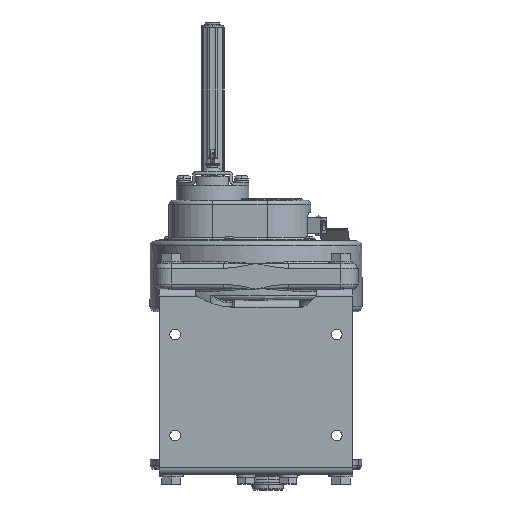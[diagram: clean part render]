
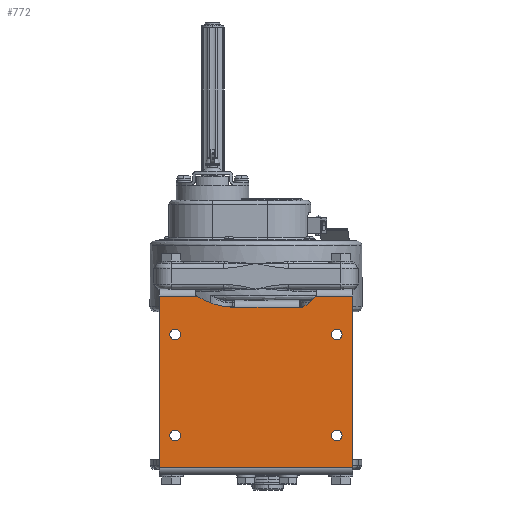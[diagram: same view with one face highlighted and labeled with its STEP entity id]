
A CAD part, front view. The second image highlights one B-rep face of the part: STEP entity #772.
In plain terms, the highlighted planar face has unit normal (0, -1, 0).
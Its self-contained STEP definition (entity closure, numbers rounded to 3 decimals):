
#772=ADVANCED_FACE('',(#9258,#9259,#9260,#9261,#9262),#9257,.T.);
#9257=PLANE('',#33594);
#9258=FACE_OUTER_BOUND('',#33595,.T.);
#9259=FACE_BOUND('',#33596,.T.);
#9260=FACE_BOUND('',#33597,.T.);
#9261=FACE_BOUND('',#33598,.T.);
#9262=FACE_BOUND('',#33599,.T.);
#33591=CARTESIAN_POINT('',(11.,-36.383,-212.1));
#33592=DIRECTION('',(0.,-1.,0.));
#33593=DIRECTION('',(0.,0.,1.));
#33594=AXIS2_PLACEMENT_3D('',#33591,#33592,#33593);
#33595=EDGE_LOOP('',(#50933,#50934,#50935,#50936,#50937,#50938,#50939,#50940,#50941,#50942));
#33596=EDGE_LOOP('',(#50943,#50944));
#33597=EDGE_LOOP('',(#50945,#50946));
#33598=EDGE_LOOP('',(#50947,#50948));
#33599=EDGE_LOOP('',(#50949,#50950));
#50933=ORIENTED_EDGE('',*,*,#62390,.T.);
#50934=ORIENTED_EDGE('',*,*,#62392,.T.);
#50935=ORIENTED_EDGE('',*,*,#62393,.T.);
#50936=ORIENTED_EDGE('',*,*,#62394,.T.);
#50937=ORIENTED_EDGE('',*,*,#62395,.T.);
#50938=ORIENTED_EDGE('',*,*,#62396,.T.);
#50939=ORIENTED_EDGE('',*,*,#62383,.T.);
#50940=ORIENTED_EDGE('',*,*,#62397,.F.);
#50941=ORIENTED_EDGE('',*,*,#62370,.F.);
#50942=ORIENTED_EDGE('',*,*,#62398,.T.);
#50943=ORIENTED_EDGE('',*,*,#62399,.F.);
#50944=ORIENTED_EDGE('',*,*,#62400,.F.);
#50945=ORIENTED_EDGE('',*,*,#62401,.F.);
#50946=ORIENTED_EDGE('',*,*,#62402,.F.);
#50947=ORIENTED_EDGE('',*,*,#62403,.F.);
#50948=ORIENTED_EDGE('',*,*,#62404,.F.);
#50949=ORIENTED_EDGE('',*,*,#62405,.F.);
#50950=ORIENTED_EDGE('',*,*,#62406,.F.);
#62370=EDGE_CURVE('',#80009,#80010,#80011,.T.);
#62383=EDGE_CURVE('',#80101,#80094,#80102,.T.);
#62390=EDGE_CURVE('',#80150,#80143,#80151,.T.);
#62392=EDGE_CURVE('',#80143,#80163,#80164,.T.);
#62393=EDGE_CURVE('',#80163,#80170,#80171,.T.);
#62394=EDGE_CURVE('',#80170,#80177,#80178,.T.);
#62395=EDGE_CURVE('',#80177,#80184,#80185,.T.);
#62396=EDGE_CURVE('',#80184,#80101,#80191,.T.);
#62397=EDGE_CURVE('',#80010,#80094,#80197,.T.);
#62398=EDGE_CURVE('',#80009,#80150,#80203,.T.);
#62399=EDGE_CURVE('',#80209,#80210,#80211,.T.);
#62400=EDGE_CURVE('',#80210,#80209,#80217,.T.);
#62401=EDGE_CURVE('',#80223,#80224,#80225,.T.);
#62402=EDGE_CURVE('',#80224,#80223,#80231,.T.);
#62403=EDGE_CURVE('',#80237,#80238,#80239,.T.);
#62404=EDGE_CURVE('',#80238,#80237,#80245,.T.);
#62405=EDGE_CURVE('',#80251,#80252,#80253,.T.);
#62406=EDGE_CURVE('',#80252,#80251,#80259,.T.);
#80009=VERTEX_POINT('',#118549);
#80010=VERTEX_POINT('',#118550);
#80011=LINE('',#118551,#118552);
#80094=VERTEX_POINT('',#118610);
#80101=VERTEX_POINT('',#118615);
#80102=LINE('',#118616,#118617);
#80143=VERTEX_POINT('',#118644);
#80150=VERTEX_POINT('',#118649);
#80151=LINE('',#118650,#118651);
#80163=VERTEX_POINT('',#118657);
#80164=CIRCLE('',#118661,30.);
#80170=VERTEX_POINT('',#118662);
#80171=CIRCLE('',#118666,2.);
#80177=VERTEX_POINT('',#118667);
#80178=LINE('',#118668,#118669);
#80184=VERTEX_POINT('',#118671);
#80185=CIRCLE('',#118675,2.);
#80191=CIRCLE('',#118679,70.);
#80197=LINE('',#118680,#118681);
#80203=LINE('',#118683,#118684);
#80209=VERTEX_POINT('',#118686);
#80210=VERTEX_POINT('',#118687);
#80211=CIRCLE('',#118691,5.25);
#80217=CIRCLE('',#118695,5.25);
#80223=VERTEX_POINT('',#118696);
#80224=VERTEX_POINT('',#118697);
#80225=CIRCLE('',#118701,5.25);
#80231=CIRCLE('',#118705,5.25);
#80237=VERTEX_POINT('',#118706);
#80238=VERTEX_POINT('',#118707);
#80239=CIRCLE('',#118711,5.25);
#80245=CIRCLE('',#118715,5.25);
#80251=VERTEX_POINT('',#118716);
#80252=VERTEX_POINT('',#118717);
#80253=CIRCLE('',#118721,5.25);
#80259=CIRCLE('',#118725,5.25);
#118549=CARTESIAN_POINT('',(1.,-36.383,-202.1));
#118550=CARTESIAN_POINT('',(-191.,-36.383,-202.1));
#118551=CARTESIAN_POINT('',(1.,-36.383,-202.1));
#118552=VECTOR('',#118553,192.);
#118553=DIRECTION('',(-1.,0.,0.));
#118610=CARTESIAN_POINT('',(-191.,-36.383,-32.4));
#118615=CARTESIAN_POINT('',(-153.59,-36.383,-32.4));
#118616=CARTESIAN_POINT('',(-153.59,-36.383,-32.4));
#118617=VECTOR('',#118618,37.41);
#118618=DIRECTION('',(-1.,0.,0.));
#118644=CARTESIAN_POINT('',(-35.917,-36.383,-32.4));
#118649=CARTESIAN_POINT('',(1.,-36.383,-32.4));
#118650=CARTESIAN_POINT('',(1.,-36.383,-32.4));
#118651=VECTOR('',#118652,36.917);
#118652=DIRECTION('',(-1.,0.,0.));
#118657=CARTESIAN_POINT('',(-49.234,-36.383,-43.247));
#118658=CARTESIAN_POINT('',(-60.73,-36.383,-15.537));
#118659=DIRECTION('',(0.,1.,0.));
#118660=DIRECTION('',(0.,0.,-1.));
#118661=AXIS2_PLACEMENT_3D('',#118658,#118659,#118660);
#118662=CARTESIAN_POINT('',(-50.,-36.383,-43.4));
#118663=CARTESIAN_POINT('',(-50.,-36.383,-41.4));
#118664=DIRECTION('',(0.,1.,0.));
#118665=DIRECTION('',(0.,0.,-1.));
#118666=AXIS2_PLACEMENT_3D('',#118663,#118664,#118665);
#118667=CARTESIAN_POINT('',(-118.,-36.383,-43.4));
#118668=CARTESIAN_POINT('',(-50.,-36.383,-43.4));
#118669=VECTOR('',#118670,68.);
#118670=DIRECTION('',(-1.,0.,0.));
#118671=CARTESIAN_POINT('',(-118.063,-36.383,-43.399));
#118672=CARTESIAN_POINT('',(-118.,-36.383,-41.4));
#118673=DIRECTION('',(0.,1.,0.));
#118674=DIRECTION('',(0.,0.,-1.));
#118675=AXIS2_PLACEMENT_3D('',#118672,#118673,#118674);
#118676=CARTESIAN_POINT('',(-115.868,-36.383,26.567));
#118677=DIRECTION('',(0.,1.,0.));
#118678=DIRECTION('',(0.,0.,-1.));
#118679=AXIS2_PLACEMENT_3D('',#118676,#118677,#118678);
#118680=CARTESIAN_POINT('',(-191.,-36.383,-202.1));
#118681=VECTOR('',#118682,169.7);
#118682=DIRECTION('',(0.,0.,1.));
#118683=CARTESIAN_POINT('',(1.,-36.383,-202.1));
#118684=VECTOR('',#118685,169.7);
#118685=DIRECTION('',(0.,0.,1.));
#118686=CARTESIAN_POINT('',(-15.,-36.383,-75.65));
#118687=CARTESIAN_POINT('',(-15.,-36.383,-65.15));
#118688=CARTESIAN_POINT('',(-15.,-36.383,-70.4));
#118689=DIRECTION('',(0.,-1.,0.));
#118690=DIRECTION('',(0.,0.,1.));
#118691=AXIS2_PLACEMENT_3D('',#118688,#118689,#118690);
#118692=CARTESIAN_POINT('',(-15.,-36.383,-70.4));
#118693=DIRECTION('',(0.,-1.,0.));
#118694=DIRECTION('',(0.,0.,1.));
#118695=AXIS2_PLACEMENT_3D('',#118692,#118693,#118694);
#118696=CARTESIAN_POINT('',(-175.,-36.383,-75.65));
#118697=CARTESIAN_POINT('',(-175.,-36.383,-65.15));
#118698=CARTESIAN_POINT('',(-175.,-36.383,-70.4));
#118699=DIRECTION('',(0.,-1.,0.));
#118700=DIRECTION('',(0.,0.,1.));
#118701=AXIS2_PLACEMENT_3D('',#118698,#118699,#118700);
#118702=CARTESIAN_POINT('',(-175.,-36.383,-70.4));
#118703=DIRECTION('',(0.,-1.,0.));
#118704=DIRECTION('',(0.,0.,1.));
#118705=AXIS2_PLACEMENT_3D('',#118702,#118703,#118704);
#118706=CARTESIAN_POINT('',(-175.,-36.383,-175.65));
#118707=CARTESIAN_POINT('',(-175.,-36.383,-165.15));
#118708=CARTESIAN_POINT('',(-175.,-36.383,-170.4));
#118709=DIRECTION('',(0.,-1.,0.));
#118710=DIRECTION('',(0.,0.,1.));
#118711=AXIS2_PLACEMENT_3D('',#118708,#118709,#118710);
#118712=CARTESIAN_POINT('',(-175.,-36.383,-170.4));
#118713=DIRECTION('',(0.,-1.,0.));
#118714=DIRECTION('',(0.,0.,1.));
#118715=AXIS2_PLACEMENT_3D('',#118712,#118713,#118714);
#118716=CARTESIAN_POINT('',(-15.,-36.383,-175.65));
#118717=CARTESIAN_POINT('',(-15.,-36.383,-165.15));
#118718=CARTESIAN_POINT('',(-15.,-36.383,-170.4));
#118719=DIRECTION('',(0.,-1.,0.));
#118720=DIRECTION('',(0.,0.,1.));
#118721=AXIS2_PLACEMENT_3D('',#118718,#118719,#118720);
#118722=CARTESIAN_POINT('',(-15.,-36.383,-170.4));
#118723=DIRECTION('',(0.,-1.,0.));
#118724=DIRECTION('',(0.,0.,1.));
#118725=AXIS2_PLACEMENT_3D('',#118722,#118723,#118724);
